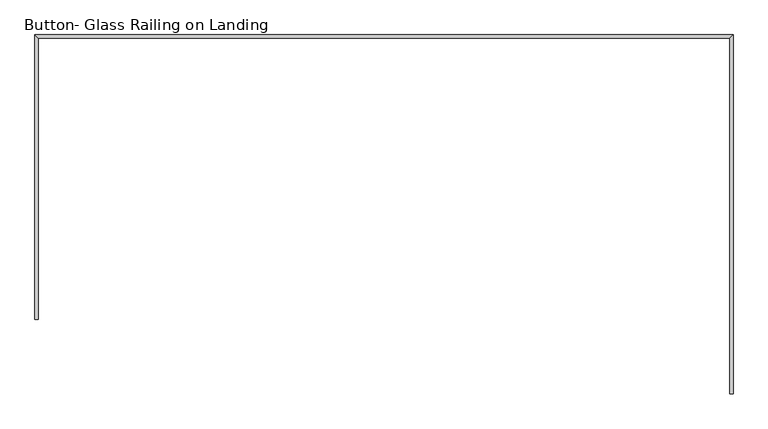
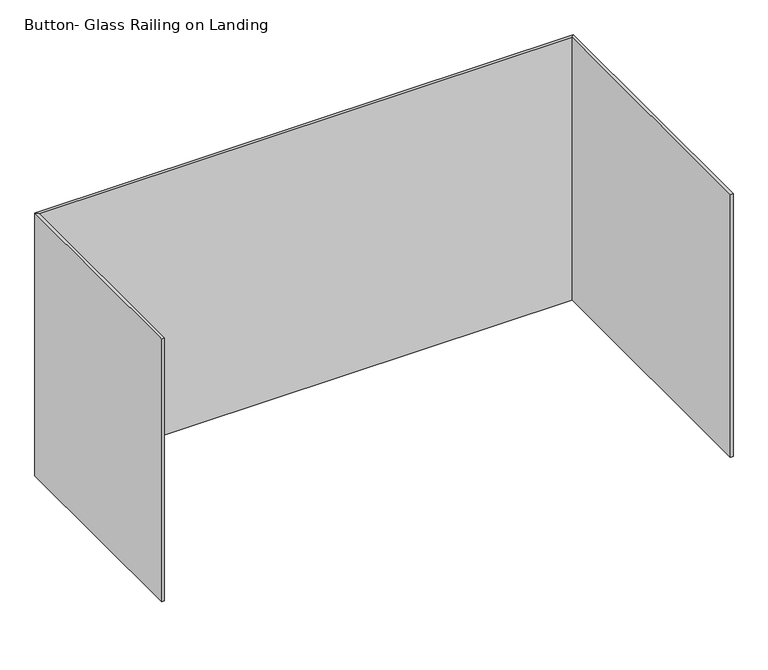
"""IFC4 building model written with IfcOpenShell, lengths in millimetres: railing geometry, Button- Glass Railing on Landing."""

from ifc_helpers import new_model, si_unit, origin, place, context, project, spatial, faceted_brep, source, transform, mapped, element, save


def button_glass_railing_on_landing_7a07d2da(model_context):
    return source(origin(), model_context, "Body", "Brep", [
        faceted_brep([(4692.309387, 4429.5994253, 1244.6), (4692.309387, 4429.5994253, 2603.5), (4679.609387, 4429.5994253, 2603.5), (4679.609387, 4429.5994253, 1244.6), (4692.309387, 5782.1494253, 1244.6), (4692.309387, 5782.1494253, 2603.5), (4679.609387, 5769.4494253, 2603.5), (4679.609387, 5769.4494253, 1244.6), (2062.9076518, 5782.1494253, 1244.6), (2062.9076518, 5782.1494253, 2603.5), (2075.6076518, 5769.4494253, 2603.5), (2075.6076518, 5769.4494253, 1244.6), (2062.9076518, 4708.9994253, 1244.6), (2075.6076518, 4708.9994253, 1244.6), (2075.6076518, 4708.9994253, 2603.5), (2062.9076518, 4708.9994253, 2603.5)], [[[0, 1, 2, 3]], [[1, 0, 4, 5]], [[2, 1, 5, 6]], [[3, 2, 6, 7]], [[0, 3, 7, 4]], [[5, 4, 8, 9]], [[6, 5, 9, 10]], [[7, 6, 10, 11]], [[4, 7, 11, 8]], [[12, 13, 14, 15]], [[9, 8, 12, 15]], [[10, 9, 15, 14]], [[11, 10, 14, 13]], [[8, 11, 13, 12]]]),
    ])


if __name__ == "__main__":
    model = new_model("IFC4")
    model_context = context("Model", 3, world=origin())
    ifc_project = project(units=[si_unit("LENGTHUNIT", "METRE", prefix="MILLI")], contexts=[model_context])
    site = spatial("IfcSite", under=ifc_project)
    building = spatial("IfcBuilding", under=site)
    placement = place(None, origin())
    button_glass_railing_on_landing_shape = button_glass_railing_on_landing_7a07d2da(model_context)
    element("IfcRailing", 1, ObjectType="Button- Glass Railing on Landing", at=placement, inside=building, context=model_context, shape_type="MappedRepresentation", body=[
        mapped(button_glass_railing_on_landing_shape, transform((0.0, 0.0, 0.0), x_axis=(1.0, 0.0, 0.0), y_axis=(0.0, 1.0, 0.0), z_axis=(0.0, 0.0, 1.0))),
    ])
    save(model, "model.ifc")
